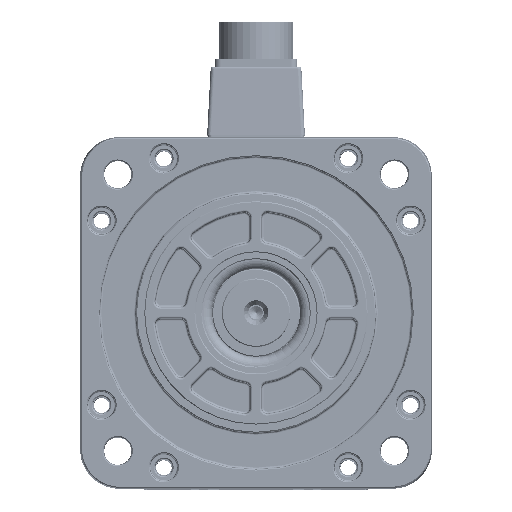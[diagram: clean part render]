
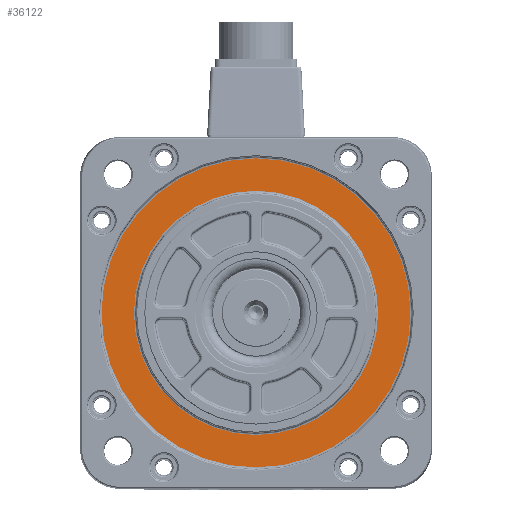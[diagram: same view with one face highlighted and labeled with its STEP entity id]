
A CAD part, top view. The second image highlights one B-rep face of the part: STEP entity #36122.
In plain terms, the highlighted planar face has unit normal (0, 0, 1).
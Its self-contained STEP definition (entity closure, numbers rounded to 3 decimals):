
#102 = EDGE_CURVE ( 'NONE', #101271, #72055, #126793, .T. ) ;
#461 = EDGE_CURVE ( 'NONE', #72055, #101271, #131282, .T. ) ;
#1051 = AXIS2_PLACEMENT_3D ( 'NONE', #64179, #52208, #132503 ) ;
#17097 = CARTESIAN_POINT ( 'NONE',  ( 0., 0., 15. ) ) ;
#19853 = CARTESIAN_POINT ( 'NONE',  ( 79.034, 0., 15. ) ) ;
#22386 = DIRECTION ( 'NONE',  ( 1., 0., 0. ) ) ;
#23095 = DIRECTION ( 'NONE',  ( 0., 0., -1. ) ) ;
#26619 = DIRECTION ( 'NONE',  ( 1., 0., 0. ) ) ;
#28658 = VERTEX_POINT ( 'NONE', #123423 ) ;
#28831 = AXIS2_PLACEMENT_3D ( 'NONE', #123667, #23095, #22386 ) ;
#29798 = EDGE_LOOP ( 'NONE', ( #47282, #109559 ) ) ;
#36122 = ADVANCED_FACE ( 'NONE', ( #131608, #73831 ), #51342, .T. ) ;
#39596 = DIRECTION ( 'NONE',  ( 1., 0., 0. ) ) ;
#40679 = DIRECTION ( 'NONE',  ( 0., 0., 1. ) ) ;
#46017 = CARTESIAN_POINT ( 'NONE',  ( -62.466, 0., 15. ) ) ;
#47282 = ORIENTED_EDGE ( 'NONE', *, *, #461, .T. ) ;
#49866 = CARTESIAN_POINT ( 'NONE',  ( 0., 0., 15. ) ) ;
#51342 = PLANE ( 'NONE',  #55763 ) ;
#52208 = DIRECTION ( 'NONE',  ( 0., 0., -1. ) ) ;
#53605 = ORIENTED_EDGE ( 'NONE', *, *, #89260, .T. ) ;
#55763 = AXIS2_PLACEMENT_3D ( 'NONE', #49866, #106130, #26619 ) ;
#64179 = CARTESIAN_POINT ( 'NONE',  ( 0., 0., 15. ) ) ;
#66580 = AXIS2_PLACEMENT_3D ( 'NONE', #17097, #119847, #39596 ) ;
#72055 = VERTEX_POINT ( 'NONE', #19853 ) ;
#73831 = FACE_BOUND ( 'NONE', #85482, .T. ) ;
#76310 = CARTESIAN_POINT ( 'NONE',  ( -79.034, 0., 15. ) ) ;
#77710 = CIRCLE ( 'NONE', #1051, 62.466 ) ;
#84203 = DIRECTION ( 'NONE',  ( 1., 0., 0. ) ) ;
#85482 = EDGE_LOOP ( 'NONE', ( #53605, #145827 ) ) ;
#89260 = EDGE_CURVE ( 'NONE', #28658, #98721, #122304, .T. ) ;
#98721 = VERTEX_POINT ( 'NONE', #46017 ) ;
#101271 = VERTEX_POINT ( 'NONE', #76310 ) ;
#106130 = DIRECTION ( 'NONE',  ( 0., 0., 1. ) ) ;
#109559 = ORIENTED_EDGE ( 'NONE', *, *, #102, .T. ) ;
#117147 = AXIS2_PLACEMENT_3D ( 'NONE', #129984, #40679, #84203 ) ;
#117472 = EDGE_CURVE ( 'NONE', #98721, #28658, #77710, .T. ) ;
#119847 = DIRECTION ( 'NONE',  ( 0., 0., 1. ) ) ;
#122304 = CIRCLE ( 'NONE', #28831, 62.466 ) ;
#123423 = CARTESIAN_POINT ( 'NONE',  ( 62.466, 0., 15. ) ) ;
#123667 = CARTESIAN_POINT ( 'NONE',  ( 0., 0., 15. ) ) ;
#126793 = CIRCLE ( 'NONE', #117147, 79.034 ) ;
#129984 = CARTESIAN_POINT ( 'NONE',  ( 0., 0., 15. ) ) ;
#131282 = CIRCLE ( 'NONE', #66580, 79.034 ) ;
#131608 = FACE_OUTER_BOUND ( 'NONE', #29798, .T. ) ;
#132503 = DIRECTION ( 'NONE',  ( 1., 0., 0. ) ) ;
#145827 = ORIENTED_EDGE ( 'NONE', *, *, #117472, .T. ) ;
